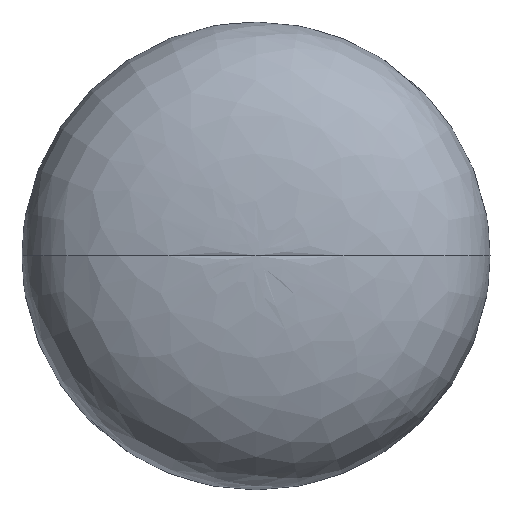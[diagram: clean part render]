
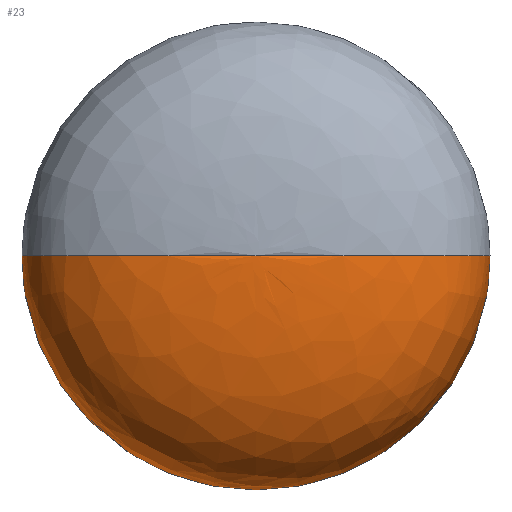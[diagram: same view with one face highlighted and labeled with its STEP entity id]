
A CAD part, top view. The second image highlights one B-rep face of the part: STEP entity #23.
In plain terms, the highlighted free-form (B-spline) face has degree [3, 2] with [7, 5] control points.
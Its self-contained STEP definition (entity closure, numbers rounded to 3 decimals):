
#23=ADVANCED_FACE('',(#36),#196,.T.);
#36=FACE_OUTER_BOUND('',#51,.T.);
#51=EDGE_LOOP('',(#84,#85,#86));
#84=ORIENTED_EDGE('',*,*,#117,.T.);
#85=ORIENTED_EDGE('',*,*,#131,.F.);
#86=ORIENTED_EDGE('',*,*,#130,.F.);
#117=EDGE_CURVE('',#177,#178,#134,.T.);
#130=EDGE_CURVE('',#177,#186,#138,.T.);
#131=EDGE_CURVE('',#186,#178,#152,.T.);
#134=(
BOUNDED_CURVE()
B_SPLINE_CURVE(3,(#619,#620,#621,#622,#623,#624,#625),.UNSPECIFIED.,.F.,
 .F.)
B_SPLINE_CURVE_WITH_KNOTS((4,3,4),(0.,135.826,238.825),
 .UNSPECIFIED.)
CURVE()
GEOMETRIC_REPRESENTATION_ITEM()
RATIONAL_B_SPLINE_CURVE((1.,1.,1.,1.,1.,1.,1.))
REPRESENTATION_ITEM('')
);
#138=(
BOUNDED_CURVE()
B_SPLINE_CURVE(3,(#668,#669,#670,#671,#672,#673,#674),.UNSPECIFIED.,.F.,
 .F.)
B_SPLINE_CURVE_WITH_KNOTS((4,3,4),(0.,135.826,238.825),
 .UNSPECIFIED.)
CURVE()
GEOMETRIC_REPRESENTATION_ITEM()
RATIONAL_B_SPLINE_CURVE((1.,1.,1.,1.,1.,1.,1.))
REPRESENTATION_ITEM('')
);
#152=TRIMMED_CURVE($,#166,(#676),(#677),.T.,.CARTESIAN.);
#166=CIRCLE('',#308,46.745);
#177=VERTEX_POINT('',#573);
#178=VERTEX_POINT('',#574);
#186=VERTEX_POINT('',#582);
#196=(
BOUNDED_SURFACE()
B_SPLINE_SURFACE(3,2,((#425,#426,#427,#428,#429),(#430,#431,#432,#433,#434),
(#435,#436,#437,#438,#439),(#440,#441,#442,#443,#444),(#445,#446,#447,#448,
#449),(#450,#451,#452,#453,#454),(#455,#456,#457,#458,#459)),
 .UNSPECIFIED.,.F.,.F.,.F.)
B_SPLINE_SURFACE_WITH_KNOTS((4,3,4),(3,2,3),(0.,135.826,240.642),
(0.,172.785,345.571),.UNSPECIFIED.)
GEOMETRIC_REPRESENTATION_ITEM()
RATIONAL_B_SPLINE_SURFACE(((1.,0.707,1.,0.707,1.),
(1.,0.707,1.,0.707,1.),(1.,0.707,1.,
0.707,1.),(1.,0.707,1.,0.707,1.),(1.,
0.707,1.,0.707,1.),(1.,0.707,1.,0.707,
1.),(1.,0.707,1.,0.707,1.)))
REPRESENTATION_ITEM('')
SURFACE()
);
#308=AXIS2_PLACEMENT_3D($,#675,#345,#346);
#345=DIRECTION('',(0.,0.,-1.));
#346=DIRECTION('',(1.,0.,0.));
#425=CARTESIAN_POINT('',(0.,0.,281.996));
#426=CARTESIAN_POINT('',(0.,0.,281.996));
#427=CARTESIAN_POINT('',(0.,0.,281.996));
#428=CARTESIAN_POINT('',(0.,0.,281.996));
#429=CARTESIAN_POINT('',(0.,0.,281.996));
#430=CARTESIAN_POINT('',(-73.333,0.,281.996));
#431=CARTESIAN_POINT('',(-73.333,-73.333,281.996));
#432=CARTESIAN_POINT('',(0.,-73.333,281.996));
#433=CARTESIAN_POINT('',(73.333,-73.333,281.996));
#434=CARTESIAN_POINT('',(73.333,0.,281.996));
#435=CARTESIAN_POINT('',(-110.,0.,260.909));
#436=CARTESIAN_POINT('',(-110.,-110.,260.909));
#437=CARTESIAN_POINT('',(0.,-110.,260.909));
#438=CARTESIAN_POINT('',(110.,-110.,260.909));
#439=CARTESIAN_POINT('',(110.,0.,260.909));
#440=CARTESIAN_POINT('',(-110.,0.,218.734));
#441=CARTESIAN_POINT('',(-110.,-110.,218.734));
#442=CARTESIAN_POINT('',(0.,-110.,218.734));
#443=CARTESIAN_POINT('',(110.,-110.,218.734));
#444=CARTESIAN_POINT('',(110.,0.,218.734));
#445=CARTESIAN_POINT('',(-110.,0.,186.188));
#446=CARTESIAN_POINT('',(-110.,-110.,186.188));
#447=CARTESIAN_POINT('',(0.,-110.,186.188));
#448=CARTESIAN_POINT('',(110.,-110.,186.188));
#449=CARTESIAN_POINT('',(110.,0.,186.188));
#450=CARTESIAN_POINT('',(-88.164,0.,166.2));
#451=CARTESIAN_POINT('',(-88.164,-88.164,166.2));
#452=CARTESIAN_POINT('',(0.,-88.164,166.2));
#453=CARTESIAN_POINT('',(88.164,-88.164,166.2));
#454=CARTESIAN_POINT('',(88.164,0.,166.2));
#455=CARTESIAN_POINT('',(-44.493,0.,158.77));
#456=CARTESIAN_POINT('',(-44.493,-44.493,158.77));
#457=CARTESIAN_POINT('',(0.,-44.493,158.77));
#458=CARTESIAN_POINT('',(44.493,-44.493,158.77));
#459=CARTESIAN_POINT('',(44.493,0.,158.77));
#573=CARTESIAN_POINT('',(0.,0.,281.996));
#574=CARTESIAN_POINT('',(-46.745,0.,159.167));
#582=CARTESIAN_POINT('',(46.745,0.,159.167));
#619=CARTESIAN_POINT('',(0.,0.,281.996));
#620=CARTESIAN_POINT('',(-73.333,0.,281.996));
#621=CARTESIAN_POINT('',(-110.,0.,260.909));
#622=CARTESIAN_POINT('',(-110.,0.,218.734));
#623=CARTESIAN_POINT('',(-110.,0.,186.752));
#624=CARTESIAN_POINT('',(-88.915,0.,166.897));
#625=CARTESIAN_POINT('',(-46.745,0.,159.167));
#668=CARTESIAN_POINT('',(0.,0.,281.996));
#669=CARTESIAN_POINT('',(73.333,0.,281.996));
#670=CARTESIAN_POINT('',(110.,0.,260.909));
#671=CARTESIAN_POINT('',(110.,0.,218.734));
#672=CARTESIAN_POINT('',(110.,0.,186.752));
#673=CARTESIAN_POINT('',(88.915,0.,166.897));
#674=CARTESIAN_POINT('',(46.745,0.,159.167));
#675=CARTESIAN_POINT('',(0.,0.,159.167));
#676=CARTESIAN_POINT('',(46.745,0.,159.167));
#677=CARTESIAN_POINT('',(-46.745,0.,159.167));
